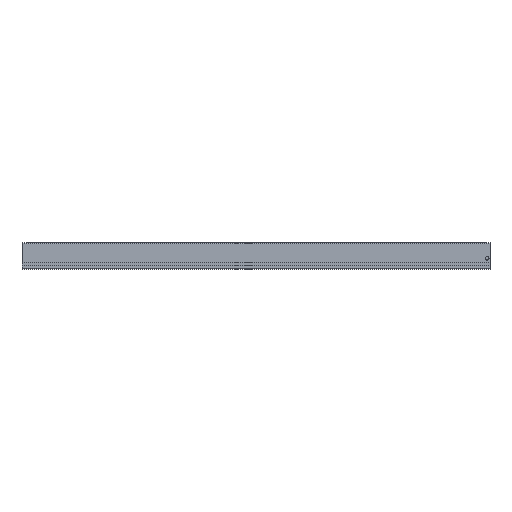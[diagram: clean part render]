
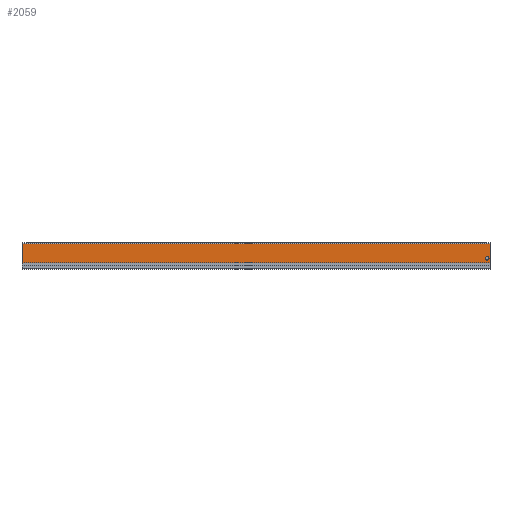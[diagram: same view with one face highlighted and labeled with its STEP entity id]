
A CAD part, top view. The second image highlights one B-rep face of the part: STEP entity #2059.
In plain terms, the highlighted planar face has unit normal (0, 0, 1).
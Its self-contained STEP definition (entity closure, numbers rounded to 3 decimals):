
#39 = EDGE_CURVE ( 'NONE', #1866, #176, #1049, .T. ) ;
#63 = CARTESIAN_POINT ( 'NONE',  ( 490., 6.6, 0. ) ) ;
#123 = VERTEX_POINT ( 'NONE', #839 ) ;
#176 = VERTEX_POINT ( 'NONE', #63 ) ;
#221 = ORIENTED_EDGE ( 'NONE', *, *, #39, .F. ) ;
#293 = ORIENTED_EDGE ( 'NONE', *, *, #1070, .F. ) ;
#301 = CARTESIAN_POINT ( 'NONE',  ( 489., 11.392, 0. ) ) ;
#361 = VERTEX_POINT ( 'NONE', #1727 ) ;
#388 = DIRECTION ( 'NONE',  ( 1., 0., 0. ) ) ;
#456 = DIRECTION ( 'NONE',  ( 0., 0., 1. ) ) ;
#486 = CIRCLE ( 'NONE', #1852, 1.85 ) ;
#504 = EDGE_CURVE ( 'NONE', #1629, #123, #1588, .T. ) ;
#575 = PLANE ( 'NONE',  #1853 ) ;
#662 = ORIENTED_EDGE ( 'NONE', *, *, #504, .F. ) ;
#698 = EDGE_CURVE ( 'NONE', #1866, #361, #705, .T. ) ;
#705 = LINE ( 'NONE', #1476, #1360 ) ;
#733 = EDGE_LOOP ( 'NONE', ( #293, #662 ) ) ;
#796 = CARTESIAN_POINT ( 'NONE',  ( 490., 0., 0. ) ) ;
#814 = FACE_BOUND ( 'NONE', #733, .T. ) ;
#839 = CARTESIAN_POINT ( 'NONE',  ( 485.3, 11.392, 0. ) ) ;
#858 = VECTOR ( 'NONE', #388, 1000. ) ;
#863 = VERTEX_POINT ( 'NONE', #1824 ) ;
#896 = EDGE_CURVE ( 'NONE', #863, #176, #1997, .T. ) ;
#907 = FACE_OUTER_BOUND ( 'NONE', #1763, .T. ) ;
#1046 = CARTESIAN_POINT ( 'NONE',  ( 490., 0., 0. ) ) ;
#1049 = LINE ( 'NONE', #796, #1178 ) ;
#1052 = CARTESIAN_POINT ( 'NONE',  ( 487.15, 11.392, 0. ) ) ;
#1070 = EDGE_CURVE ( 'NONE', #123, #1629, #486, .T. ) ;
#1178 = VECTOR ( 'NONE', #1288, 1000. ) ;
#1267 = DIRECTION ( 'NONE',  ( -1., 0., 0. ) ) ;
#1288 = DIRECTION ( 'NONE',  ( 0., -1., 0. ) ) ;
#1353 = CARTESIAN_POINT ( 'NONE',  ( 0., 6.6, 0. ) ) ;
#1360 = VECTOR ( 'NONE', #1798, 1000. ) ;
#1376 = DIRECTION ( 'NONE',  ( 0., -1., 0. ) ) ;
#1474 = LINE ( 'NONE', #2011, #1599 ) ;
#1476 = CARTESIAN_POINT ( 'NONE',  ( 490., 26.7, 0. ) ) ;
#1483 = ORIENTED_EDGE ( 'NONE', *, *, #2052, .T. ) ;
#1538 = DIRECTION ( 'NONE',  ( -1., 0., 0. ) ) ;
#1550 = ORIENTED_EDGE ( 'NONE', *, *, #698, .T. ) ;
#1588 = CIRCLE ( 'NONE', #1732, 1.85 ) ;
#1599 = VECTOR ( 'NONE', #1376, 1000. ) ;
#1629 = VERTEX_POINT ( 'NONE', #301 ) ;
#1694 = DIRECTION ( 'NONE',  ( 0., 0., 1. ) ) ;
#1698 = DIRECTION ( 'NONE',  ( -1., 0., 0. ) ) ;
#1701 = DIRECTION ( 'NONE',  ( 0., 0., -1. ) ) ;
#1719 = CARTESIAN_POINT ( 'NONE',  ( 487.15, 11.392, 0. ) ) ;
#1724 = ORIENTED_EDGE ( 'NONE', *, *, #896, .T. ) ;
#1727 = CARTESIAN_POINT ( 'NONE',  ( 0., 26.7, 0. ) ) ;
#1732 = AXIS2_PLACEMENT_3D ( 'NONE', #1052, #456, #1267 ) ;
#1763 = EDGE_LOOP ( 'NONE', ( #221, #1550, #1483, #1724 ) ) ;
#1798 = DIRECTION ( 'NONE',  ( -1., 0., 0. ) ) ;
#1824 = CARTESIAN_POINT ( 'NONE',  ( 0., 6.6, 0. ) ) ;
#1852 = AXIS2_PLACEMENT_3D ( 'NONE', #1719, #1694, #1698 ) ;
#1853 = AXIS2_PLACEMENT_3D ( 'NONE', #1046, #1701, #1538 ) ;
#1866 = VERTEX_POINT ( 'NONE', #1908 ) ;
#1908 = CARTESIAN_POINT ( 'NONE',  ( 490., 26.7, 0. ) ) ;
#1997 = LINE ( 'NONE', #1353, #858 ) ;
#2011 = CARTESIAN_POINT ( 'NONE',  ( 0., 0., 0. ) ) ;
#2052 = EDGE_CURVE ( 'NONE', #361, #863, #1474, .T. ) ;
#2059 = ADVANCED_FACE ( 'NONE', ( #814, #907 ), #575, .F. ) ;
